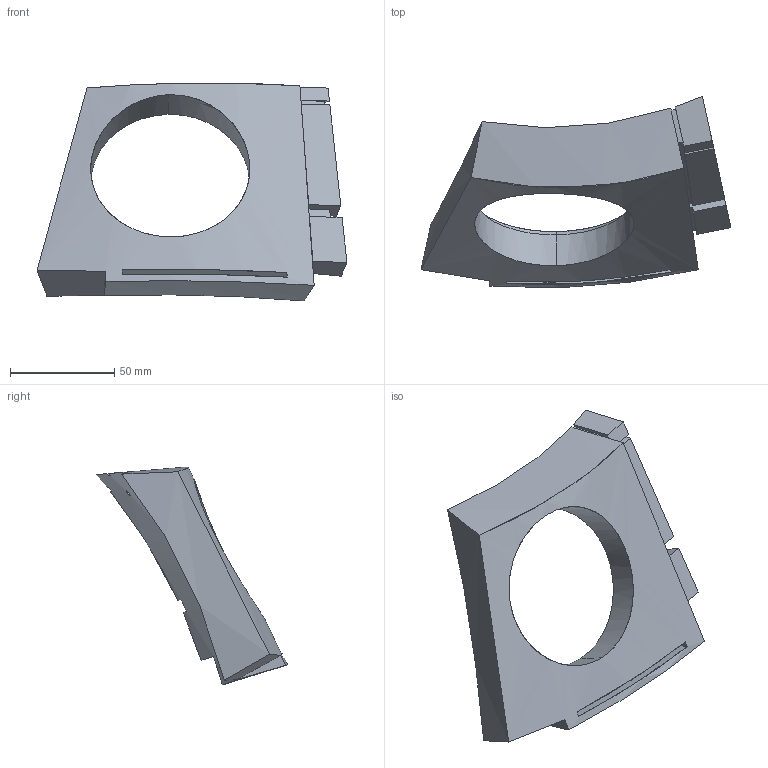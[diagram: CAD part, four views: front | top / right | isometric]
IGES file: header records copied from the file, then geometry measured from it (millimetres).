
Start section: 3D InterOp IGES (Version 21 0 3), Spatial Corp. Copyright (c) 1999-2007.
Global section: file name: CSR Radar Eye - 20140513.igs; native system: Spatial Corp.; preprocessor: 3D InterOp GENERIC/IGES 3.0; author: Noname; organization: Noname; date: 20140514.231519; units: inch
Bounding box: 148.4 x 91.49 x 104.38 mm (x, y, z)
Surface area: 40090.5 mm2 (no closed solid volume)
Topology: 0 solids, 0 shells, 50 faces, 352 edges, 352 vertices
Faces by surface type: extrusion 21, bspline 13, revolution 12, offset 4
